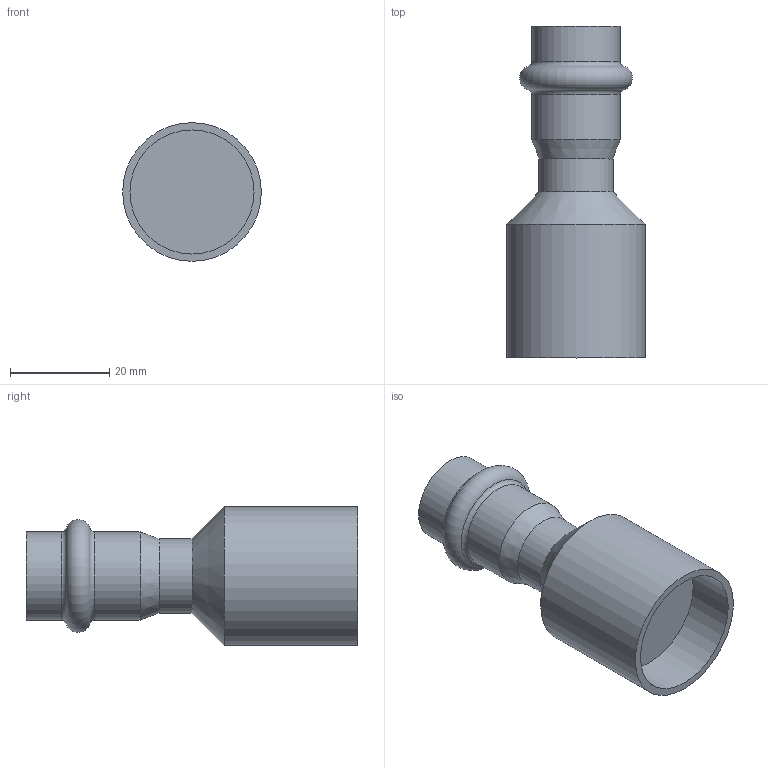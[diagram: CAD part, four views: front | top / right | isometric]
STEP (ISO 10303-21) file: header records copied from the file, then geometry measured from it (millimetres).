
FILE_DESCRIPTION(('STEP AP203'), '1');
FILE_NAME('VTi.905.I.002815', '', ('UNSPECIFIED'), ('UNSPECIFIED'), 'C3D Converter', 'C3D Toolkit', '');
FILE_SCHEMA(('CONFIG_CONTROL_DESIGN'));
Length unit declared in the file: millimetre
Bounding box: 28 x 67 x 28 mm (x, y, z)
Volume: 21161.9 mm3; surface area: 7006.9 mm2
Topology: 1 solids, 1 shells, 15 faces, 26 edges, 15 vertices
Faces by surface type: cylinder 6, plane 4, torus 3, cone 2
Full cylindrical faces by diameter (mm): 15 x1, 15.3 x1, 17.8 x2, 25.04 x1, 28 x1
Entity records: 344 total; most frequent: DIRECTION 62, CARTESIAN_POINT 46, AXIS2_PLACEMENT_3D 31, ORIENTED_EDGE 30, EDGE_LOOP 28, FACE_OUTER_BOUND 20, ADVANCED_FACE 15, EDGE_CURVE 15
